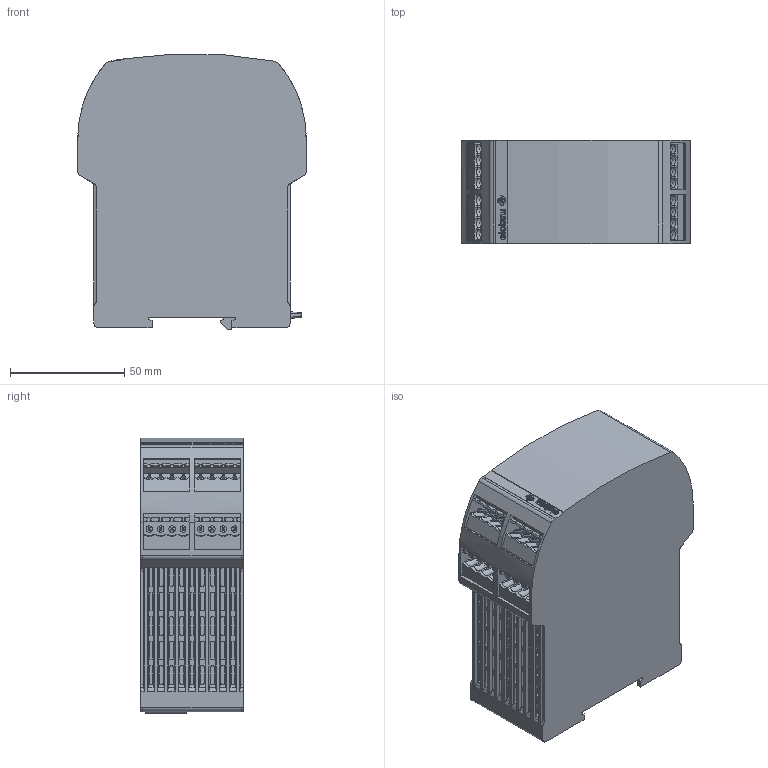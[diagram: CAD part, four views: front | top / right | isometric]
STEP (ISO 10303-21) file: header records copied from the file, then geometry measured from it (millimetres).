
FILE_DESCRIPTION(/* description */ ('Katalogmodell Elobau'),/* implementation_level */ '2;1');
FILE_NAME(/* name */ 'Katalogdaten.stp',/* time_stamp */ '2014-10-08T18:54:53+02:00',/* author */ ('Elobau GmbH & Co. KG'),/* organization */ ('Elobau GmbH & Co. KG'),/* preprocessor_version */ 'ST-DEVELOPER v15',/* originating_system */ 'SIEMENS PLM Software NX 8.5',/* authorisation */ '');
FILE_SCHEMA (('AUTOMOTIVE_DESIGN { 1 0 10303 214 3 1 1 1 }'));
Length unit declared in the file: millimetre
Products named in the file (1): 471EFR..._A
Bounding box: 100 x 45 x 120.84 mm (x, y, z)
Volume: 454078.5 mm3; surface area: 51047.2 mm2
Topology: 1 solids, 3 shells, 2063 faces, 5538 edges, 3634 vertices
Faces by surface type: plane 1376, cylinder 605, bspline 50, revolution 32
Full cylindrical faces by diameter (mm): 2.8 x24
Entity records: 70950 total; most frequent: CARTESIAN_POINT 14580, ORIENTED_EDGE 10972, DIRECTION 10011, EDGE_CURVE 5486, LINE 3955, VECTOR 3955, VERTEX_POINT 3610, AXIS2_PLACEMENT_3D 3012
